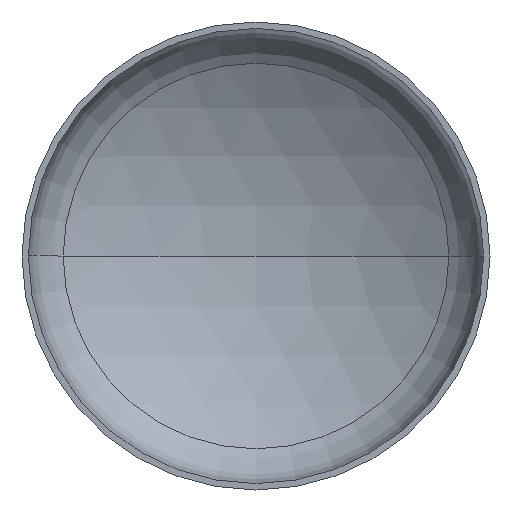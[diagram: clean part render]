
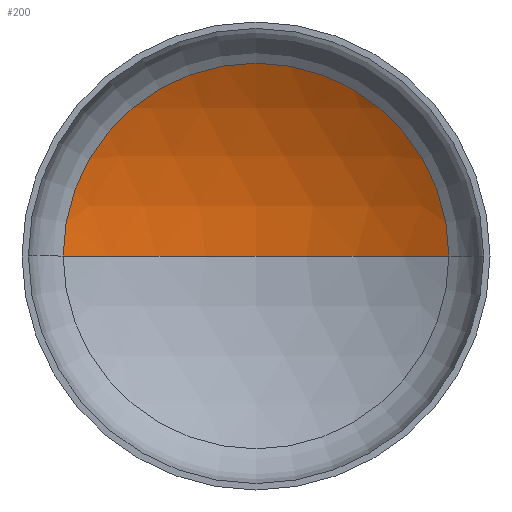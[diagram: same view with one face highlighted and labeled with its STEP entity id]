
A CAD part, front view. The second image highlights one B-rep face of the part: STEP entity #200.
In plain terms, the highlighted spherical face has radius 2560 mm.
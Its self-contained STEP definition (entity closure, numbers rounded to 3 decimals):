
#3 = CARTESIAN_POINT ( 'NONE',  ( 0., 560.03, 0. ) ) ;
#8 = CARTESIAN_POINT ( 'NONE',  ( 0., -1634.414, 0. ) ) ;
#14 = ORIENTED_EDGE ( 'NONE', *, *, #116, .T. ) ;
#19 = AXIS2_PLACEMENT_3D ( 'NONE', #253, #270, #237 ) ;
#21 = EDGE_LOOP ( 'NONE', ( #99, #14, #86 ) ) ;
#31 = AXIS2_PLACEMENT_3D ( 'NONE', #148, #189, #208 ) ;
#33 = VERTEX_POINT ( 'NONE', #248 ) ;
#34 = AXIS2_PLACEMENT_3D ( 'NONE', #8, #307, #172 ) ;
#38 = AXIS2_PLACEMENT_3D ( 'NONE', #3, #276, #358 ) ;
#76 = VERTEX_POINT ( 'NONE', #277 ) ;
#86 = ORIENTED_EDGE ( 'NONE', *, *, #115, .T. ) ;
#99 = ORIENTED_EDGE ( 'NONE', *, *, #119, .F. ) ;
#115 = EDGE_CURVE ( 'NONE', #33, #76, #256, .T. ) ;
#116 = EDGE_CURVE ( 'NONE', #126, #33, #195, .T. ) ;
#119 = EDGE_CURVE ( 'NONE', #126, #76, #319, .T. ) ;
#126 = VERTEX_POINT ( 'NONE', #366 ) ;
#148 = CARTESIAN_POINT ( 'NONE',  ( 0., -1634.414, 0. ) ) ;
#172 = DIRECTION ( 'NONE',  ( -1., 0., 0. ) ) ;
#189 = DIRECTION ( 'NONE',  ( 0., 0., 1. ) ) ;
#190 = SPHERICAL_SURFACE ( 'NONE', #19, 2560. ) ;
#195 = CIRCLE ( 'NONE', #34, 2560. ) ;
#200 = ADVANCED_FACE ( 'NONE', ( #301 ), #190, .F. ) ;
#208 = DIRECTION ( 'NONE',  ( 1., 0., 0. ) ) ;
#237 = DIRECTION ( 'NONE',  ( -1., 0., 0. ) ) ;
#248 = CARTESIAN_POINT ( 'NONE',  ( 1318.338, 560.03, 0. ) ) ;
#253 = CARTESIAN_POINT ( 'NONE',  ( 0., -1634.414, 0. ) ) ;
#256 = CIRCLE ( 'NONE', #38, 1318.338 ) ;
#270 = DIRECTION ( 'NONE',  ( 0., 0., -1. ) ) ;
#276 = DIRECTION ( 'NONE',  ( 0., -1., 0. ) ) ;
#277 = CARTESIAN_POINT ( 'NONE',  ( -1318.338, 560.03, 0. ) ) ;
#301 = FACE_OUTER_BOUND ( 'NONE', #21, .T. ) ;
#307 = DIRECTION ( 'NONE',  ( 0., 0., -1. ) ) ;
#319 = CIRCLE ( 'NONE', #31, 2560. ) ;
#358 = DIRECTION ( 'NONE',  ( 1., 0., 0. ) ) ;
#366 = CARTESIAN_POINT ( 'NONE',  ( 0., 925.586, 0. ) ) ;
